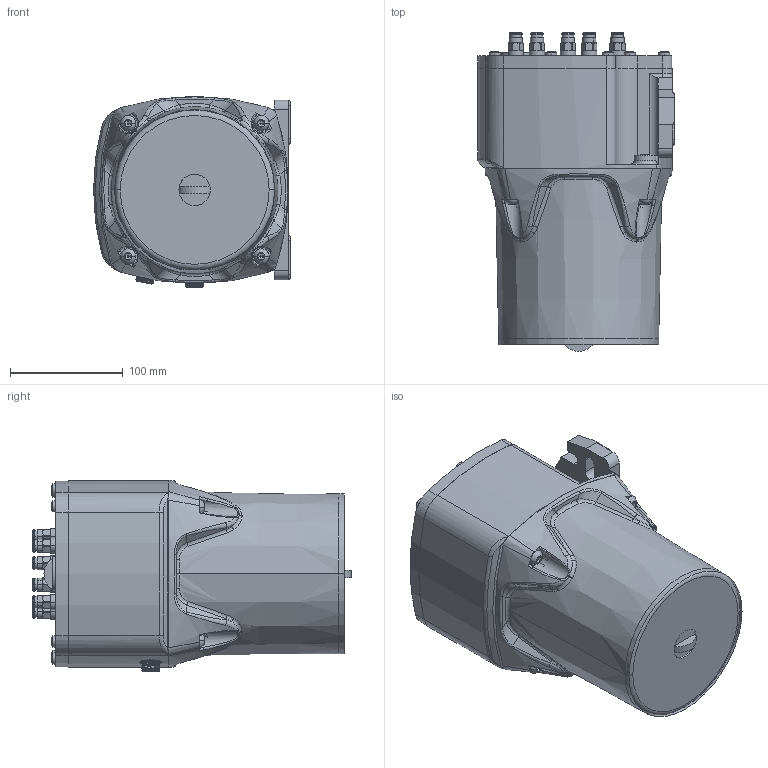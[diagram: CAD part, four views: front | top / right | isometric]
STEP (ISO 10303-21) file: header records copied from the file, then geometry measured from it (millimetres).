
FILE_DESCRIPTION((''),'2;1');
FILE_NAME('ASM0001_ASM','2018-04-27T',('d01226'),(''),'PRO/ENGINEER BY PARAMETRIC TECHNOLOGY CORPORATION, 2008410','PRO/ENGINEER BY PARAMETRIC TECHNOLOGY CORPORATION, 2008410','');
FILE_SCHEMA(('CONFIG_CONTROL_DESIGN'));
Length unit declared in the file: millimetre
Products named in the file (10): M6201002002; M6201002001; M6201002010; 11111111; 2111B104008; M6106001005; M6106001002; M6106_ASM; 211CB208040; ASM0001_ASM
Assembly tree (30 placements, depth 3):
  ASM0001_ASM
    M6201002002
    M6201002001
    M6201002010
    11111111  x2
    2111B104008  x9
    M6106_ASM  x10
      M6106001005
      M6106001002
    211CB208040  x4
Bounding box: 174.74 x 282.8 x 169.97 mm (x, y, z)
Volume: 5137551.7 mm3; surface area: 432318.9 mm2
Topology: 38 solids, 44 shells, 3801 faces, 9545 edges, 6007 vertices
Faces by surface type: plane 1321, cylinder 1125, cone 591, torus 546, bspline 178, sphere 40
Entity records: 41470 total; most frequent: CARTESIAN_POINT 17405, ORIENTED_EDGE 5126, DIRECTION 4857, EDGE_CURVE 2565, AXIS2_PLACEMENT_3D 1978, VERTEX_POINT 1608, EDGE_LOOP 1123, CIRCLE 1063
